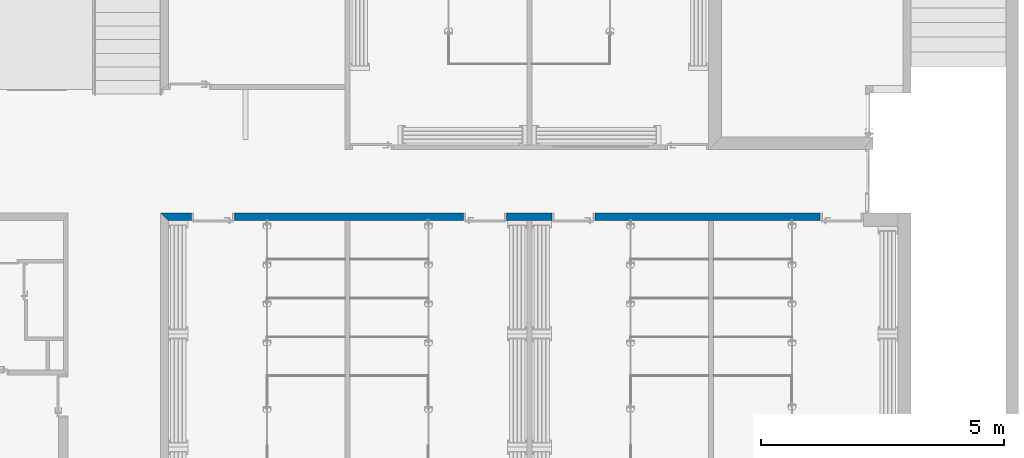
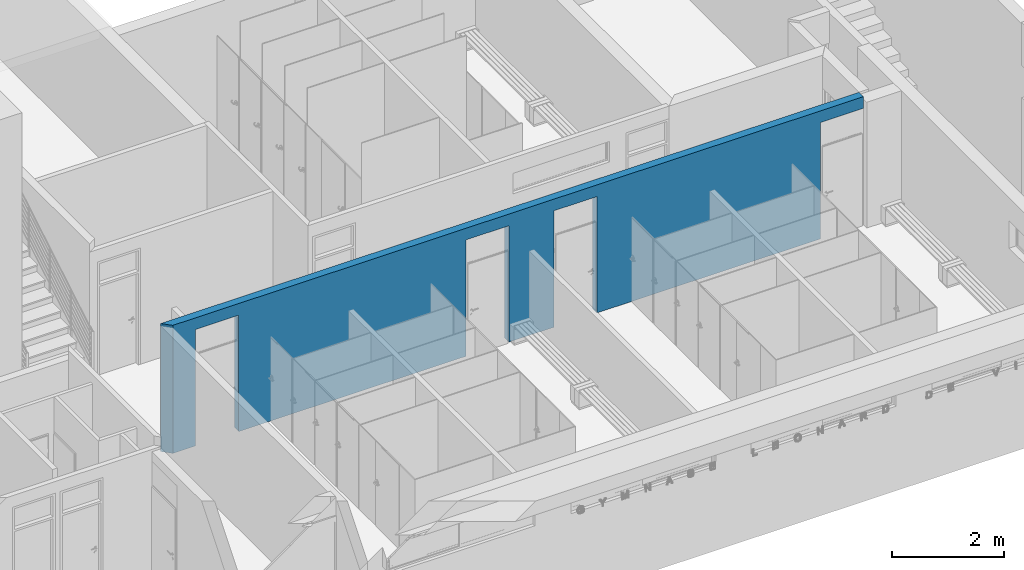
# One storey, part 20 of 45: 1 wall, 4 openings.
"""IFC2X3 building model written with IfcOpenShell, lengths in metres."""

from ifc_helpers import new_model, entity, si_unit, converted_unit, money_unit, direction, frame, origin_with_axes, place, context, subcontext, project, spatial, polyline, outline, extrude, material, layer, layer_set, layer_usage, type_object, element, save


model = new_model("IFC2X3")

# Units and contexts
model_context = context("Model", 3, precision=1e-05, world=origin_with_axes(), true_north=direction((0.0, 1.0)))
body_context = subcontext(model_context, "Body", "Model", "MODEL_VIEW")
ifc_project = project(units=[si_unit("LENGTHUNIT", "METRE"), si_unit("AREAUNIT", "SQUARE_METRE"), si_unit("VOLUMEUNIT", "CUBIC_METRE"), converted_unit("PLANEANGLEUNIT", "DEGREE", entity("IfcPlaneAngleMeasure", 0.0174532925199), si_unit("PLANEANGLEUNIT", "RADIAN"), dimensions=[0, 0, 0, 0, 0, 0, 0]), si_unit("SOLIDANGLEUNIT", "STERADIAN"), money_unit("EUR"), converted_unit("TIMEUNIT", "Year", entity("IfcTimeMeasure", 31556926.0), si_unit("TIMEUNIT", "SECOND"), dimensions=[0, 0, 0, 0, 0, 0, 0]), si_unit("MASSUNIT", "GRAM"), si_unit("THERMODYNAMICTEMPERATUREUNIT", "DEGREE_CELSIUS"), si_unit("LUMINOUSINTENSITYUNIT", "LUMEN")], contexts=[model_context])

# Site, building, storey
site_placement = place(None, origin_with_axes())
site = spatial("IfcSite", under=ifc_project, at=site_placement, Name="Site", CompositionType="ELEMENT")
building_placement = place(site_placement, origin_with_axes())
building = spatial("IfcBuilding", under=site, at=building_placement, Name="Bâtiment", CompositionType="ELEMENT")
storey_placement = place(building_placement, origin_with_axes())
storey = spatial("IfcBuildingStorey", under=building, at=storey_placement, Name="NIVEAU BAS GYMNASE", CompositionType="ELEMENT", Elevation=0.0)

# Wall, openings
ifc_material = material(Name="Hachure solide* 1842511997")
ifc_layer = layer(ifc_material, 0.16, ventilated="UNKNOWN")
ifc_layer_set = layer_set([ifc_layer], Name="Hachure solide* 1842511997 0.16")
ifc_layer_usage = layer_usage(ifc_layer_set, "AXIS2", "POSITIVE", -0.16)
wall_type = type_object("IfcWallType", Name="Hachure solide* 1842511997 160", PredefinedType="NOTDEFINED")
wall_placement = place(storey_placement, frame((66.2830112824, 13.108815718, 0.0), z_axis=(0.0, 0.0, 1.0), x_axis=(-1.0, 0.0, 0.0)))
wall = element("IfcWallStandardCase", 1, at=wall_placement, inside=storey, type_object=wall_type, material=ifc_layer_usage, Name="Mur-004", context=body_context, shape_type="SweptSolid", body=[
    extrude(outline(polyline([(0.0, -0.16), (14.4445533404, -0.16), (14.2845533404, 0.0), (0.0, 0.0), (0.0, -0.16)])), origin_with_axes(), (0.0, 0.0, 1.0), 2.8),
])
opening_1_placement = place(wall_placement, frame((13.3654576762, 0.0, -0.01), z_axis=(0.0, 0.0, 1.0), x_axis=(1.0, 0.0, 0.0)))
element("IfcOpeningElement", 2, at=opening_1_placement, cuts=wall, Name="Por-017", context=body_context, shape_type="SweptSolid", body=[
    extrude(outline(polyline([(-0.445, 0.0), (-0.445, -2.555), (0.445, -2.555), (0.445, 0.0), (-0.445, 0.0)])), frame((0.0, -0.16, 0.0), z_axis=(0.0, 1.0, 0.0), x_axis=(1.0, 0.0, 0.0)), (0.0, 0.0, 1.0), 0.32),
])
opening_2_placement = place(wall_placement, frame((7.77671642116, 0.0, -0.01), z_axis=(0.0, 0.0, 1.0), x_axis=(1.0, 0.0, 0.0)))
element("IfcOpeningElement", 3, at=opening_2_placement, cuts=wall, Name="Por-017", context=body_context, shape_type="SweptSolid", body=[
    extrude(outline(polyline([(0.445, 0.0), (-0.445, 0.0), (-0.445, -2.555), (0.445, -2.555), (0.445, 0.0)])), frame((0.0, -0.16, 0.0), z_axis=(0.0, 1.0, 0.0), x_axis=(1.0, 0.0, 0.0)), (0.0, 0.0, 1.0), 0.32),
])
opening_3_placement = place(wall_placement, frame((5.95662331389, 0.0, -0.01), z_axis=(0.0, 0.0, 1.0), x_axis=(1.0, 0.0, 0.0)))
element("IfcOpeningElement", 4, at=opening_3_placement, cuts=wall, Name="Por-017", context=body_context, shape_type="SweptSolid", body=[
    extrude(outline(polyline([(-0.445, 0.0), (-0.445, -2.555), (0.445, -2.555), (0.445, 0.0), (-0.445, 0.0)])), frame((0.0, -0.16, 0.0), z_axis=(0.0, 1.0, 0.0), x_axis=(1.0, 0.0, 0.0)), (0.0, 0.0, 1.0), 0.32),
])
opening_4_placement = place(wall_placement, frame((0.444999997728, 0.0, -0.01), z_axis=(0.0, 0.0, 1.0), x_axis=(1.0, 0.0, 0.0)))
element("IfcOpeningElement", 5, at=opening_4_placement, cuts=wall, Name="Por-018", context=body_context, shape_type="SweptSolid", body=[
    extrude(outline(polyline([(0.445, 0.0), (-0.445, 0.0), (-0.445, -2.555), (0.445, -2.555), (0.445, 0.0)])), frame((0.0, -0.16, 0.0), z_axis=(0.0, 1.0, 0.0), x_axis=(1.0, 0.0, 0.0)), (0.0, 0.0, 1.0), 0.32),
])

save(model, "model.ifc")
